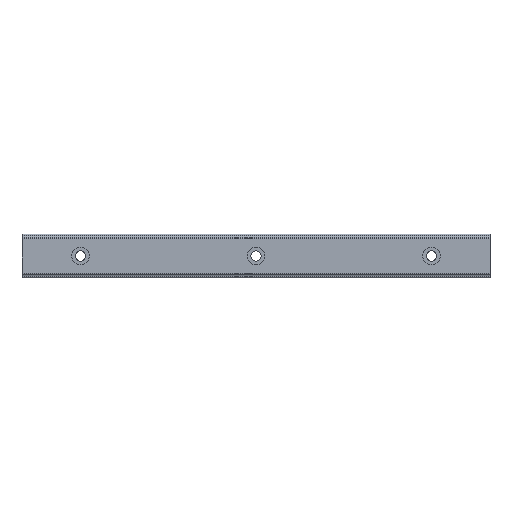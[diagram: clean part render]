
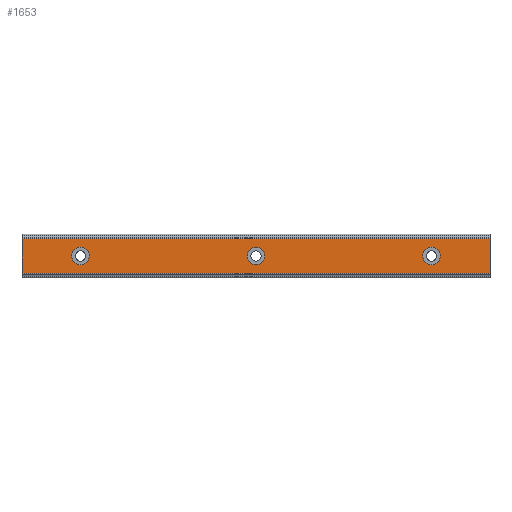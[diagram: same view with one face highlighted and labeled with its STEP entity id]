
A CAD part, top view. The second image highlights one B-rep face of the part: STEP entity #1653.
In plain terms, the highlighted planar face has unit normal (0, 0, 1).
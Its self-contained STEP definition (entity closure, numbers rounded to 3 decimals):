
#1346=CARTESIAN_POINT('POINT89',(140.,-5.945,
   12.5));
#1347=VERTEX_POINT('VERTEX89',#1346);
#1355=CARTESIAN_POINT('POINT90',(-20.,-5.945,
   12.5));
#1356=VERTEX_POINT('VERTEX90',#1355);
#1357=CARTESIAN_POINT('POS162',(-20.,-5.945,
   12.5));
#1358=DIRECTION('DIR247',(1.,0.,0.));
#1359=VECTOR('VEC77',#1358,1.);
#1360=LINE('STRAIGHT77',#1357,#1359);
#1361=EDGE_CURVE('EDGE130',#1356,#1347,#1360,.T.);
#1398=CARTESIAN_POINT('POINT91',(-20.,5.945,
   12.5));
#1399=VERTEX_POINT('VERTEX91',#1398);
#1400=CARTESIAN_POINT('POS165',(-20.,5.945,
   12.5));
#1401=DIRECTION('DIR252',(0.,-1.,0.));
#1402=VECTOR('VEC78',#1401,1.);
#1403=LINE('STRAIGHT78',#1400,#1402);
#1404=EDGE_CURVE('EDGE132',#1399,#1356,#1403,.T.);
#1438=CARTESIAN_POINT('POINT92',(140.,5.945,
   12.5));
#1439=VERTEX_POINT('VERTEX92',#1438);
#1449=CARTESIAN_POINT('POS169',(-20.,5.945,
   12.5));
#1450=DIRECTION('DIR259',(1.,0.,0.));
#1451=VECTOR('VEC79',#1450,1.);
#1452=LINE('STRAIGHT79',#1449,#1451);
#1453=EDGE_CURVE('EDGE135',#1399,#1439,#1452,.T.);
#1482=CARTESIAN_POINT('POS171',(140.,5.945,12.5
   ));
#1483=DIRECTION('DIR262',(0.,1.,0.));
#1484=VECTOR('VEC80',#1483,1.);
#1485=LINE('STRAIGHT80',#1482,#1484);
#1486=EDGE_CURVE('EDGE136',#1347,#1439,#1485,.T.);
#1514=CARTESIAN_POINT('POINT93',(63.,0.,
   12.5));
#1515=VERTEX_POINT('VERTEX93',#1514);
#1523=CARTESIAN_POINT('POINT94',(57.,0.,
   12.5));
#1524=VERTEX_POINT('VERTEX94',#1523);
#1531=CARTESIAN_POINT('POS175',(60.,0.,12.5));
#1532=DIRECTION('DIR267',(0.,0.,-1.));
#1533=DIRECTION('DIR268',(1.,0.,0.));
#1534=AXIS2_PLACEMENT_3D('AXIS93',#1531,#1532,#1533);
#1535=CIRCLE('ELLIPSE49',#1534,3.);
#1536=EDGE_CURVE('EDGE139',#1515,#1524,#1535,.T.);
#1547=EDGE_CURVE('EDGE140',#1524,#1515,#1535,.T.);
#1554=CARTESIAN_POINT('POINT95',(123.,0.,
   12.5));
#1555=VERTEX_POINT('VERTEX95',#1554);
#1563=CARTESIAN_POINT('POINT96',(117.,0.,
   12.5));
#1564=VERTEX_POINT('VERTEX96',#1563);
#1571=CARTESIAN_POINT('POS179',(120.,0.,12.5));
#1572=DIRECTION('DIR273',(0.,0.,-1.));
#1573=DIRECTION('DIR274',(1.,0.,0.));
#1574=AXIS2_PLACEMENT_3D('AXIS95',#1571,#1572,#1573);
#1575=CIRCLE('ELLIPSE50',#1574,3.);
#1576=EDGE_CURVE('EDGE143',#1555,#1564,#1575,.T.);
#1587=EDGE_CURVE('EDGE144',#1564,#1555,#1575,.T.);
#1619=ORIENTED_EDGE('COEDGE283',*,*,#1587,.T.);
#1620=ORIENTED_EDGE('COEDGE284',*,*,#1576,.T.);
#1621=EDGE_LOOP('NONE',(#1619,#1620));
#1622=FACE_BOUND('LOOP1',#1621,.T.);
#1623=ORIENTED_EDGE('COEDGE285',*,*,#1547,.T.);
#1624=ORIENTED_EDGE('COEDGE286',*,*,#1536,.T.);
#1625=EDGE_LOOP('NONE',(#1623,#1624));
#1626=FACE_BOUND('LOOP1',#1625,.T.);
#1627=CARTESIAN_POINT('POINT99',(-3.,0.,
   12.5));
#1628=VERTEX_POINT('VERTEX99',#1627);
#1629=CARTESIAN_POINT('POINT100',(3.,0.,
   12.5));
#1630=VERTEX_POINT('VERTEX100',#1629);
#1631=CARTESIAN_POINT('POS183',(0.,0.,12.5));
#1632=DIRECTION('DIR281',(0.,0.,-1.));
#1633=DIRECTION('DIR282',(1.,0.,0.));
#1634=AXIS2_PLACEMENT_3D('AXIS99',#1631,#1632,#1633);
#1635=CIRCLE('ELLIPSE52',#1634,3.);
#1636=EDGE_CURVE('EDGE147',#1628,#1630,#1635,.T.);
#1637=ORIENTED_EDGE('COEDGE287',*,*,#1636,.T.);
#1638=EDGE_CURVE('EDGE148',#1630,#1628,#1635,.T.);
#1639=ORIENTED_EDGE('COEDGE288',*,*,#1638,.T.);
#1640=EDGE_LOOP('NONE',(#1637,#1639));
#1641=FACE_BOUND('LOOP1',#1640,.T.);
#1642=ORIENTED_EDGE('COEDGE289',*,*,#1486,.T.);
#1643=ORIENTED_EDGE('COEDGE290',*,*,#1453,.F.);
#1644=ORIENTED_EDGE('COEDGE291',*,*,#1404,.T.);
#1645=ORIENTED_EDGE('COEDGE292',*,*,#1361,.T.);
#1646=EDGE_LOOP('NONE',(#1642,#1643,#1644,#1645));
#1647=FACE_BOUND('LOOP1',#1646,.T.);
#1648=CARTESIAN_POINT('POS184',(-20.,0.,
   12.5));
#1649=DIRECTION('DIR283',(0.,0.,1.));
#1650=DIRECTION('DIR284',(1.,0.,0.));
#1651=AXIS2_PLACEMENT_3D('AXIS100',#1648,#1649,#1650);
#1652=PLANE('PLANE23',#1651);
#1653=ADVANCED_FACE('FACE53',(#1622,#1626,#1641,#1647),#1652,.T.);
